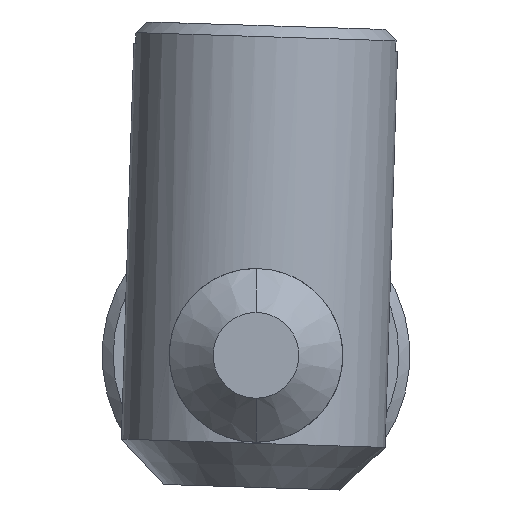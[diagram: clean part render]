
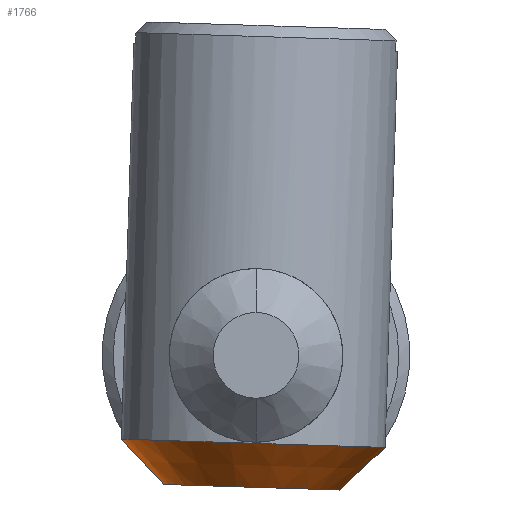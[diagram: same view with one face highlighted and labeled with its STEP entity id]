
A CAD part, front view. The second image highlights one B-rep face of the part: STEP entity #1766.
In plain terms, the highlighted conical face has half-angle 45 degrees and reference radius 4 mm.
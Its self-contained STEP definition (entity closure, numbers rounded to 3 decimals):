
#61 = EDGE_CURVE ( 'NONE', #63, #190, #901, .T. ) ;
#63 = VERTEX_POINT ( 'NONE', #2857 ) ;
#114 = VERTEX_POINT ( 'NONE', #2922 ) ;
#137 = AXIS2_PLACEMENT_3D ( 'NONE', #1483, #1477, #1454 ) ;
#190 = VERTEX_POINT ( 'NONE', #3191 ) ;
#362 = FACE_OUTER_BOUND ( 'NONE', #2097, .T. ) ;
#428 = CIRCLE ( 'NONE', #137, 6. ) ;
#838 = CARTESIAN_POINT ( 'NONE',  ( -4.829, 1.047, 7.983 ) ) ;
#901 = LINE ( 'NONE', #2858, #1149 ) ;
#948 = ORIENTED_EDGE ( 'NONE', *, *, #1988, .T. ) ;
#1004 = CARTESIAN_POINT ( 'NONE',  ( -4.829, 1.047, 7.983 ) ) ;
#1014 = DIRECTION ( 'NONE',  ( 0.729, 0., 0.684 ) ) ;
#1036 = ORIENTED_EDGE ( 'NONE', *, *, #2565, .F. ) ;
#1117 = ORIENTED_EDGE ( 'NONE', *, *, #2252, .F. ) ;
#1149 = VECTOR ( 'NONE', #2863, 1000. ) ;
#1361 = AXIS2_PLACEMENT_3D ( 'NONE', #2634, #2644, #2662 ) ;
#1454 = DIRECTION ( 'NONE',  ( -1., 0., 0.031 ) ) ;
#1477 = DIRECTION ( 'NONE',  ( 0.031, 0., 1. ) ) ;
#1478 = AXIS2_PLACEMENT_3D ( 'NONE', #2536, #2523, #2451 ) ;
#1483 = CARTESIAN_POINT ( 'NONE',  ( -8.764, 1.047, 10.108 ) ) ;
#1538 = CONICAL_SURFACE ( 'NONE', #1361, 4., 0.785 ) ;
#1766 = ADVANCED_FACE ( 'NONE', ( #362 ), #1538, .T. ) ;
#1988 = EDGE_CURVE ( 'NONE', #3018, #114, #2498, .T. ) ;
#2097 = EDGE_LOOP ( 'NONE', ( #3056, #1117, #948, #1036 ) ) ;
#2234 = VECTOR ( 'NONE', #1014, 1000. ) ;
#2252 = EDGE_CURVE ( 'NONE', #3018, #63, #2624, .T. ) ;
#2451 = DIRECTION ( 'NONE',  ( -1., 0., 0.031 ) ) ;
#2498 = LINE ( 'NONE', #1004, #2234 ) ;
#2523 = DIRECTION ( 'NONE',  ( -0.031, 0., -1. ) ) ;
#2536 = CARTESIAN_POINT ( 'NONE',  ( -8.827, 1.047, 8.108 ) ) ;
#2565 = EDGE_CURVE ( 'NONE', #190, #114, #428, .T. ) ;
#2624 = CIRCLE ( 'NONE', #1478, 4. ) ;
#2634 = CARTESIAN_POINT ( 'NONE',  ( -8.827, 1.047, 8.108 ) ) ;
#2644 = DIRECTION ( 'NONE',  ( 0.031, 0., 1. ) ) ;
#2662 = DIRECTION ( 'NONE',  ( 1., 0., -0.031 ) ) ;
#2857 = CARTESIAN_POINT ( 'NONE',  ( -12.825, 1.047, 8.234 ) ) ;
#2858 = CARTESIAN_POINT ( 'NONE',  ( -12.825, 1.047, 8.234 ) ) ;
#2863 = DIRECTION ( 'NONE',  ( -0.684, 0., 0.729 ) ) ;
#2922 = CARTESIAN_POINT ( 'NONE',  ( -2.767, 1.047, 9.919 ) ) ;
#3018 = VERTEX_POINT ( 'NONE', #838 ) ;
#3056 = ORIENTED_EDGE ( 'NONE', *, *, #61, .F. ) ;
#3191 = CARTESIAN_POINT ( 'NONE',  ( -14.761, 1.047, 10.296 ) ) ;
